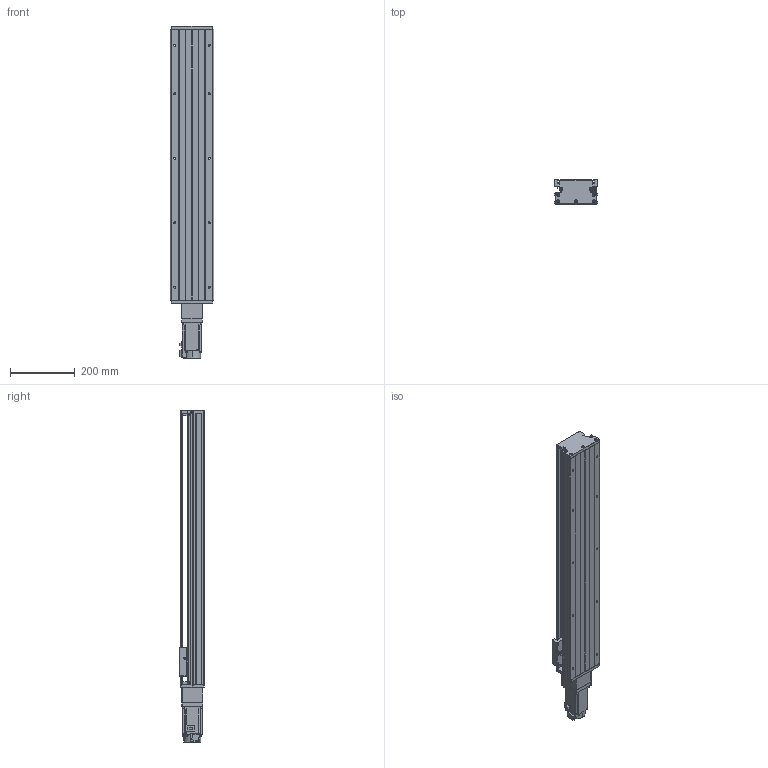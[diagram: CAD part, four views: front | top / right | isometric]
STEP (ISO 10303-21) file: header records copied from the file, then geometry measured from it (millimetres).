
FILE_DESCRIPTION (( 'STEP AP203' ), '1' );
FILE_NAME ('KTH130-700-BC-M40-C4.step', '2023-06-30T03:55:12', ( '微软用户' ), ( '微软中国' ), 'SwSTEP 2.0', 'SolidWorks 2020', '' );
FILE_SCHEMA (( 'CONFIG_CONTROL_DESIGN' ));
Length unit declared in the file: millimetre
Products named in the file (19): GB1155-6X6; GBT77-2000 M3×3; KTH130-700-BC-M40-C4; GBT70.1 M5℅16; す晦芛蹟隊 M3℅5; GBT 70.2-M3¡Á5_M3¡Á6; GBT 70.3-M3℅8; GTH14-001_700; CTHA60-017; CTHA86-006-1_M40; KTH130-002_KTH130-002; EE_SX911P_R; CTHA86-013; KTH130-004; CTHA60-016; CTHA86-027-1; KTH130-005; GBT 70.1-M3℅5; HG-KN43J-S100
Assembly tree (52 placements, depth 2):
  KTH130-700-BC-M40-C4
    GTH14-001_700
    KTH130-002_KTH130-002
    KTH130-004
    KTH130-005
    GB1155-6X6  x2
    GBT70.1 M5℅16  x10
    GBT 70.2-M3¡Á5_M3¡Á6  x4
    CTHA60-017  x3
    EE_SX911P_R  x3
    CTHA60-016  x2
    GBT 70.1-M3℅5  x6
    GBT77-2000 M3×3  x6
    す晦芛蹟隊 M3℅5  x2
    GBT 70.3-M3℅8  x6
    CTHA86-006-1_M40
    CTHA86-013
    CTHA86-027-1
    HG-KN43J-S100
Bounding box: 135 x 78 x 1028.7 mm (x, y, z)
Volume: 5234675 mm3; surface area: 801238.2 mm2
Topology: 55 solids, 55 shells, 2182 faces, 5278 edges, 3294 vertices
Faces by surface type: plane 1194, cylinder 600, cone 280, torus 96, sphere 12
Entity records: 39882 total; most frequent: CARTESIAN_POINT 8476, DIRECTION 5925, ORIENTED_EDGE 5840, EDGE_CURVE 2920, AXIS2_PLACEMENT_3D 2017, VECTOR 1891, LINE 1891, VERTEX_POINT 1866
